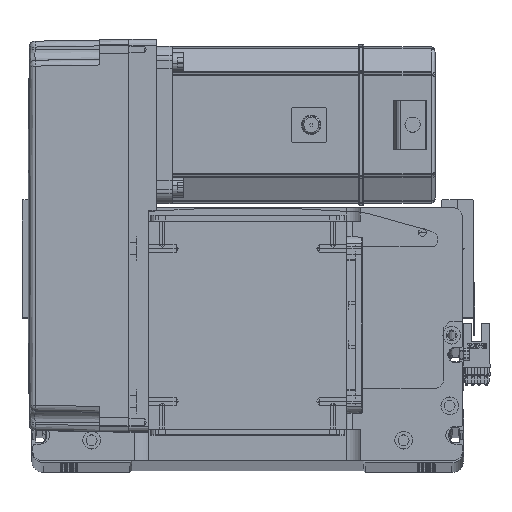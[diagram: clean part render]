
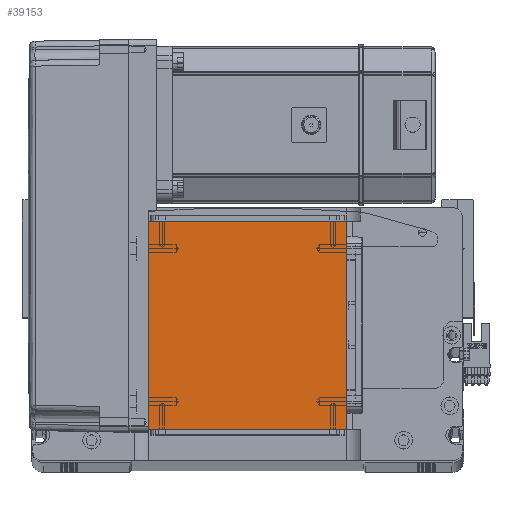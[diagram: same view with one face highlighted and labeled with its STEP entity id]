
A CAD part, top view. The second image highlights one B-rep face of the part: STEP entity #39153.
In plain terms, the highlighted planar face has unit normal (0, 0, 1).
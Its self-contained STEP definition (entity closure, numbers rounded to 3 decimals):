
#2287 = FACE_OUTER_BOUND ( 'NONE', #40969, .T. ) ;
#5982 = CARTESIAN_POINT ( 'NONE',  ( 50.5, 122., 115. ) ) ;
#6230 = VECTOR ( 'NONE', #41154, 1000. ) ;
#7604 = CARTESIAN_POINT ( 'NONE',  ( -50.5, 16., 115. ) ) ;
#8167 = EDGE_CURVE ( 'NONE', #48089, #34268, #47798, .T. ) ;
#8289 = ORIENTED_EDGE ( 'NONE', *, *, #8167, .T. ) ;
#10166 = CARTESIAN_POINT ( 'NONE',  ( -50.5, 16., 115. ) ) ;
#10374 = DIRECTION ( 'NONE',  ( 1., 0., 0. ) ) ;
#10918 = VECTOR ( 'NONE', #22714, 1000. ) ;
#10985 = ORIENTED_EDGE ( 'NONE', *, *, #51280, .T. ) ;
#13309 = ORIENTED_EDGE ( 'NONE', *, *, #58193, .T. ) ;
#13767 = LINE ( 'NONE', #30381, #10918 ) ;
#14576 = EDGE_CURVE ( 'NONE', #34268, #29736, #13767, .T. ) ;
#19630 = DIRECTION ( 'NONE',  ( 0., 0., 1. ) ) ;
#22714 = DIRECTION ( 'NONE',  ( 0., -1., 0. ) ) ;
#25091 = ORIENTED_EDGE ( 'NONE', *, *, #14576, .T. ) ;
#28266 = CARTESIAN_POINT ( 'NONE',  ( -50.5, 122., 115. ) ) ;
#29736 = VERTEX_POINT ( 'NONE', #10166 ) ;
#30381 = CARTESIAN_POINT ( 'NONE',  ( -50.5, 122., 115. ) ) ;
#33652 = VERTEX_POINT ( 'NONE', #54058 ) ;
#34268 = VERTEX_POINT ( 'NONE', #28266 ) ;
#34827 = VECTOR ( 'NONE', #49632, 1000. ) ;
#37335 = CARTESIAN_POINT ( 'NONE',  ( 0., 0., 115. ) ) ;
#38272 = AXIS2_PLACEMENT_3D ( 'NONE', #37335, #19630, #10374 ) ;
#39153 = ADVANCED_FACE ( 'NONE', ( #2287 ), #55177, .T. ) ;
#39736 = DIRECTION ( 'NONE',  ( 1., 0., 0. ) ) ;
#40969 = EDGE_LOOP ( 'NONE', ( #25091, #10985, #13309, #8289 ) ) ;
#41154 = DIRECTION ( 'NONE',  ( -1., 0., 0. ) ) ;
#41708 = CARTESIAN_POINT ( 'NONE',  ( -50.5, 122., 115. ) ) ;
#47798 = LINE ( 'NONE', #41708, #6230 ) ;
#48089 = VERTEX_POINT ( 'NONE', #5982 ) ;
#48897 = LINE ( 'NONE', #53543, #34827 ) ;
#49223 = LINE ( 'NONE', #7604, #51351 ) ;
#49632 = DIRECTION ( 'NONE',  ( 0., 1., 0. ) ) ;
#51280 = EDGE_CURVE ( 'NONE', #29736, #33652, #49223, .T. ) ;
#51351 = VECTOR ( 'NONE', #39736, 1000. ) ;
#53543 = CARTESIAN_POINT ( 'NONE',  ( 50.5, 122., 115. ) ) ;
#54058 = CARTESIAN_POINT ( 'NONE',  ( 50.5, 16., 115. ) ) ;
#55177 = PLANE ( 'NONE',  #38272 ) ;
#58193 = EDGE_CURVE ( 'NONE', #33652, #48089, #48897, .T. ) ;
